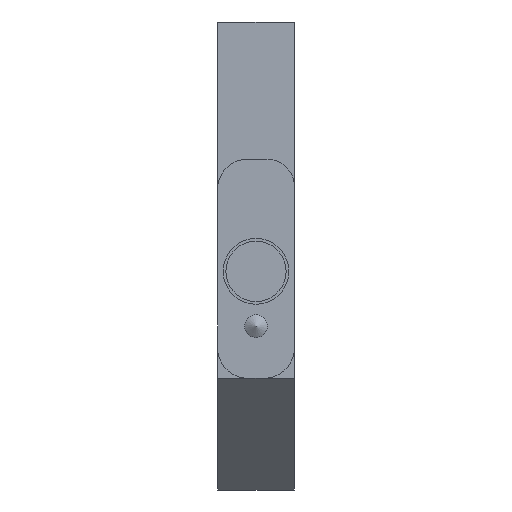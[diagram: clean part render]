
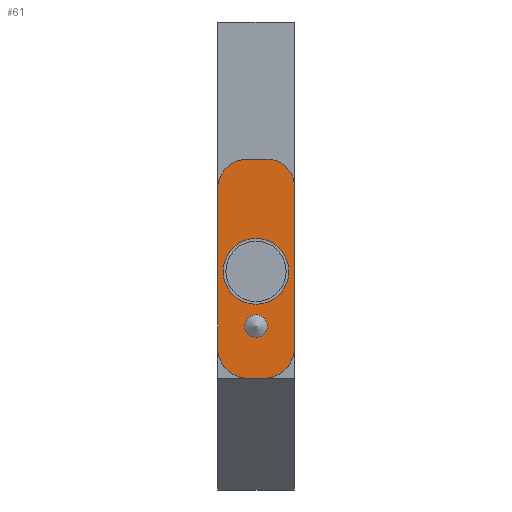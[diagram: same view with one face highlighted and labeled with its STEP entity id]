
A CAD part, front view. The second image highlights one B-rep face of the part: STEP entity #61.
In plain terms, the highlighted planar face has unit normal (0, -1, 0).
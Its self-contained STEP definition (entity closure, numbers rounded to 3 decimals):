
#61=ADVANCED_FACE('',(#138,#139,#140),#141,.F.);
#138=FACE_BOUND('',#235,.T.);
#139=FACE_OUTER_BOUND('',#236,.T.);
#140=FACE_BOUND('',#237,.T.);
#141=PLANE('',#238);
#235=EDGE_LOOP('',(#395));
#236=EDGE_LOOP('',(#396,#397,#398,#399,#400,#401,#402,#403));
#237=EDGE_LOOP('',(#404,#405));
#238=AXIS2_PLACEMENT_3D('',#406,#407,#408);
#395=ORIENTED_EDGE('',*,*,#522,.T.);
#396=ORIENTED_EDGE('',*,*,#523,.F.);
#397=ORIENTED_EDGE('',*,*,#524,.F.);
#398=ORIENTED_EDGE('',*,*,#525,.F.);
#399=ORIENTED_EDGE('',*,*,#502,.F.);
#400=ORIENTED_EDGE('',*,*,#503,.F.);
#401=ORIENTED_EDGE('',*,*,#505,.F.);
#402=ORIENTED_EDGE('',*,*,#507,.F.);
#403=ORIENTED_EDGE('',*,*,#510,.F.);
#404=ORIENTED_EDGE('',*,*,#512,.T.);
#405=ORIENTED_EDGE('',*,*,#526,.T.);
#406=CARTESIAN_POINT('',(2.0,270.0,15.49));
#407=DIRECTION('',(0.0,1.0,0.0));
#408=DIRECTION('',(1.0,0.0,-0.0));
#502=EDGE_CURVE('',#594,#592,#596,.T.);
#503=EDGE_CURVE('',#597,#594,#598,.T.);
#505=EDGE_CURVE('',#600,#597,#601,.T.);
#507=EDGE_CURVE('',#603,#600,#604,.T.);
#510=EDGE_CURVE('',#606,#603,#608,.T.);
#512=EDGE_CURVE('',#612,#609,#613,.T.);
#522=EDGE_CURVE('',#628,#628,#629,.T.);
#523=EDGE_CURVE('',#630,#606,#631,.T.);
#524=EDGE_CURVE('',#632,#630,#633,.T.);
#525=EDGE_CURVE('',#592,#632,#634,.T.);
#526=EDGE_CURVE('',#609,#612,#635,.T.);
#592=VERTEX_POINT('',#718);
#594=VERTEX_POINT('',#721);
#596=LINE('',#724,#725);
#597=VERTEX_POINT('',#726);
#598=CIRCLE('',#727,5.5);
#600=VERTEX_POINT('',#730);
#601=LINE('',#731,#732);
#603=VERTEX_POINT('',#735);
#604=CIRCLE('',#736,5.5);
#606=VERTEX_POINT('',#739);
#608=LINE('',#742,#743);
#609=VERTEX_POINT('',#744);
#612=VERTEX_POINT('',#748);
#613=CIRCLE('',#749,6.0);
#628=VERTEX_POINT('',#767);
#629=CIRCLE('',#768,2.1);
#630=VERTEX_POINT('',#769);
#631=CIRCLE('',#770,5.0);
#632=VERTEX_POINT('',#771);
#633=LINE('',#772,#773);
#634=CIRCLE('',#774,5.5);
#635=CIRCLE('',#775,6.0);
#718=CARTESIAN_POINT('',(-7.0,270.0,14.99));
#721=CARTESIAN_POINT('',(-7.0,270.0,-14.01));
#724=CARTESIAN_POINT('',(-7.0,270.0,14.99));
#725=VECTOR('',#837,1000.0);
#726=CARTESIAN_POINT('',(-1.5,270.0,-19.51));
#727=AXIS2_PLACEMENT_3D('',#838,#839,#840);
#730=CARTESIAN_POINT('',(1.5,270.0,-19.51));
#731=CARTESIAN_POINT('',(-1.5,270.0,-19.51));
#732=VECTOR('',#842,1000.0);
#735=CARTESIAN_POINT('',(7.0,270.0,-14.01));
#736=AXIS2_PLACEMENT_3D('',#844,#845,#846);
#739=CARTESIAN_POINT('',(7.0,270.0,15.49));
#742=CARTESIAN_POINT('',(7.0,270.0,-14.01));
#743=VECTOR('',#849,1000.0);
#744=CARTESIAN_POINT('',(0.,270.0,6.0));
#748=CARTESIAN_POINT('',(0.0,270.0,-6.0));
#749=AXIS2_PLACEMENT_3D('',#851,#852,#853);
#767=CARTESIAN_POINT('',(0.,270.0,-7.9));
#768=AXIS2_PLACEMENT_3D('',#875,#876,#877);
#769=CARTESIAN_POINT('',(2.0,270.0,20.49));
#770=AXIS2_PLACEMENT_3D('',#878,#879,#880);
#771=CARTESIAN_POINT('',(-1.5,270.0,20.49));
#772=CARTESIAN_POINT('',(2.0,270.0,20.49));
#773=VECTOR('',#881,1000.0);
#774=AXIS2_PLACEMENT_3D('',#882,#883,#884);
#775=AXIS2_PLACEMENT_3D('',#885,#886,#887);
#837=DIRECTION('',(0.,0.0,1.0));
#838=CARTESIAN_POINT('',(-1.5,270.0,-14.01));
#839=DIRECTION('',(0.0,1.0,0.0));
#840=DIRECTION('',(0.0,0.0,1.0));
#842=DIRECTION('',(-1.0,0.0,0.0));
#844=CARTESIAN_POINT('',(1.5,270.0,-14.01));
#845=DIRECTION('',(0.0,1.0,0.0));
#846=DIRECTION('',(0.0,0.0,1.0));
#849=DIRECTION('',(0.,0.0,-1.0));
#851=CARTESIAN_POINT('',(0.0,270.0,0.0));
#852=DIRECTION('',(0.0,1.0,0.0));
#853=DIRECTION('',(0.0,0.0,1.0));
#875=CARTESIAN_POINT('',(0.,270.0,-10.0));
#876=DIRECTION('',(0.0,1.0,0.0));
#877=DIRECTION('',(0.0,0.0,1.0));
#878=CARTESIAN_POINT('',(2.0,270.0,15.49));
#879=DIRECTION('',(0.0,1.0,0.0));
#880=DIRECTION('',(0.0,0.0,1.0));
#881=DIRECTION('',(1.0,0.0,0.));
#882=CARTESIAN_POINT('',(-1.5,270.0,14.99));
#883=DIRECTION('',(0.0,1.0,0.0));
#884=DIRECTION('',(0.0,0.0,1.0));
#885=CARTESIAN_POINT('',(0.0,270.0,0.0));
#886=DIRECTION('',(0.0,1.0,0.0));
#887=DIRECTION('',(0.0,0.0,1.0));
